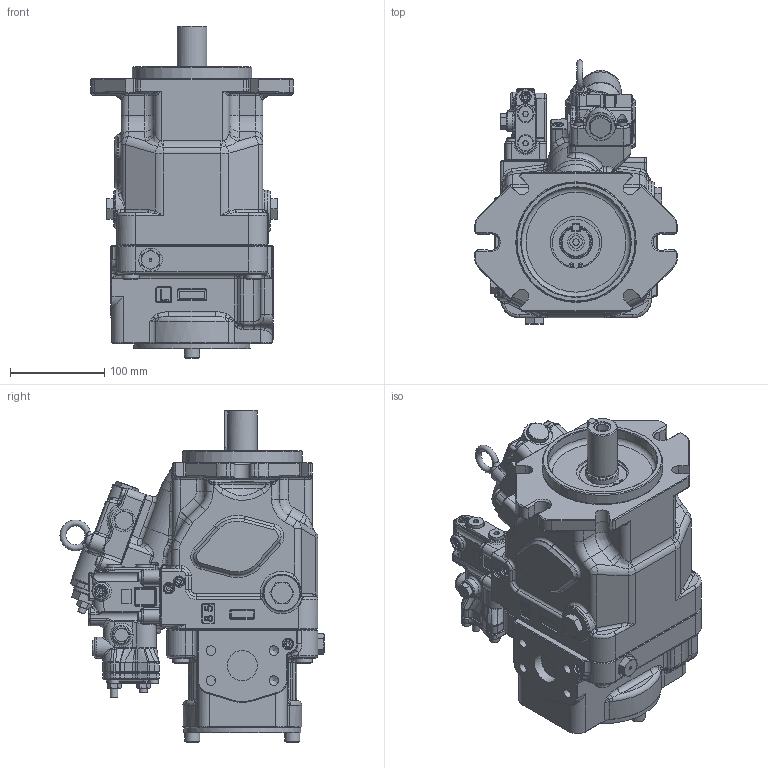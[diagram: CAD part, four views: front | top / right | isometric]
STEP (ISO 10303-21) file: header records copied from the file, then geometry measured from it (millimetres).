
FILE_DESCRIPTION(/* description */ (''),/* implementation_level */ '2;1');
FILE_NAME(/* name */ 'K3VLS85-1NRK3H-L1AAM2.stp',/* time_stamp */ '2025-09-24T15:20:05+01:00',/* author */ ('jhatcher'),/* organization */ (''),/* preprocessor_version */ 'ST-DEVELOPER v20',/* originating_system */ 'Autodesk Inventor 2024',/* authorisation */ '');
FILE_SCHEMA (('AUTOMOTIVE_DESIGN { 1 0 10303 214 3 1 1 }'));
Products named in the file (1): K3VLS85-1NRK3H-L1AAM2
Bounding box: 215 x 279.91 x 352 mm (x, y, z)
Volume: 6998800.1 mm3; surface area: 349874.6 mm2
Topology: 1 solids, 1 shells, 3326 faces, 8377 edges, 5121 vertices
Faces by surface type: plane 1427, cylinder 818, bspline 494, cone 370, torus 190, sphere 27
Full cylindrical faces by diameter (mm): 2.5 x2, 4 x3, 6.647 x1, 8 x3, 8.376 x4, 9.4 x10, 10 x12, 10.106 x8, 11 x12, 12 x9, 16 x5, 18 x9, 20 x5, 22 x1, 24 x2, 25 x1, 31.75 x1, 32 x1, 33 x1, 35 x1, 35.09 x1, 45 x1, 55 x1, 58 x1, 60 x1, 116 x1, 124 x1, 127 x1
Entity records: 115954 total; most frequent: CARTESIAN_POINT 39504, ORIENTED_EDGE 16532, DIRECTION 15073, EDGE_CURVE 8266, AXIS2_PLACEMENT_3D 5462, VERTEX_POINT 5121, LINE 4149, VECTOR 4149
